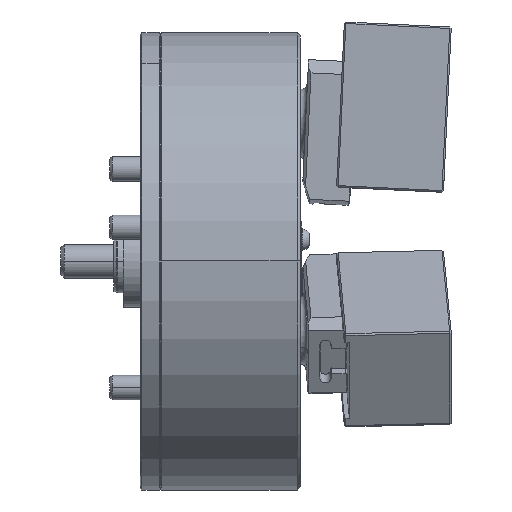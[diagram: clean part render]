
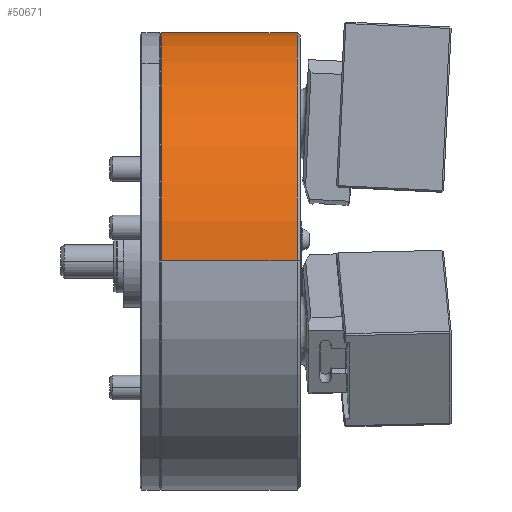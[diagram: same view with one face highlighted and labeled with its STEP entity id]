
A CAD part, top view. The second image highlights one B-rep face of the part: STEP entity #50671.
In plain terms, the highlighted cylindrical face has radius 150 mm (diameter 300 mm), a partial arc.
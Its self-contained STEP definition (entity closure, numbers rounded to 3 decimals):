
#586 = ORIENTED_EDGE ( 'NONE', *, *, #9970, .T. ) ;
#3121 = DIRECTION ( 'NONE',  ( 0., 0., -1. ) ) ;
#3338 = CARTESIAN_POINT ( 'NONE',  ( -2., 0., 150. ) ) ;
#4134 = ORIENTED_EDGE ( 'NONE', *, *, #47880, .T. ) ;
#4699 = LINE ( 'NONE', #36694, #24629 ) ;
#4981 = CARTESIAN_POINT ( 'NONE',  ( -91.2, 0., 0. ) ) ;
#5203 = AXIS2_PLACEMENT_3D ( 'NONE', #26969, #6603, #3121 ) ;
#5426 = DIRECTION ( 'NONE',  ( 1., 0., 0. ) ) ;
#5470 = ORIENTED_EDGE ( 'NONE', *, *, #36213, .F. ) ;
#6603 = DIRECTION ( 'NONE',  ( 1., 0., 0. ) ) ;
#8326 = FACE_OUTER_BOUND ( 'NONE', #46886, .T. ) ;
#8953 = DIRECTION ( 'NONE',  ( 0., 0., -1. ) ) ;
#9401 = ORIENTED_EDGE ( 'NONE', *, *, #49575, .F. ) ;
#9970 = EDGE_CURVE ( 'NONE', #15714, #21046, #47972, .T. ) ;
#10252 = CARTESIAN_POINT ( 'NONE',  ( -2., 0., -150. ) ) ;
#10392 = CARTESIAN_POINT ( 'NONE',  ( 63.843, 0., 150. ) ) ;
#11690 = AXIS2_PLACEMENT_3D ( 'NONE', #4981, #32846, #8953 ) ;
#12804 = DIRECTION ( 'NONE',  ( 1., 0., 0. ) ) ;
#15714 = VERTEX_POINT ( 'NONE', #36045 ) ;
#17617 = CYLINDRICAL_SURFACE ( 'NONE', #5203, 150. ) ;
#21046 = VERTEX_POINT ( 'NONE', #46940 ) ;
#22900 = VECTOR ( 'NONE', #38273, 1000. ) ;
#24629 = VECTOR ( 'NONE', #12804, 1000. ) ;
#26969 = CARTESIAN_POINT ( 'NONE',  ( 63.843, 0., 0. ) ) ;
#29273 = CARTESIAN_POINT ( 'NONE',  ( -2., 0., 0. ) ) ;
#32285 = LINE ( 'NONE', #10392, #22900 ) ;
#32846 = DIRECTION ( 'NONE',  ( 1., 0., 0. ) ) ;
#33294 = DIRECTION ( 'NONE',  ( 0., 0., -1. ) ) ;
#33466 = VERTEX_POINT ( 'NONE', #3338 ) ;
#36045 = CARTESIAN_POINT ( 'NONE',  ( -91.2, 0., -150. ) ) ;
#36213 = EDGE_CURVE ( 'NONE', #50570, #33466, #46063, .T. ) ;
#36694 = CARTESIAN_POINT ( 'NONE',  ( 63.843, 0., -150. ) ) ;
#38273 = DIRECTION ( 'NONE',  ( 1., 0., 0. ) ) ;
#41780 = AXIS2_PLACEMENT_3D ( 'NONE', #29273, #5426, #33294 ) ;
#46063 = CIRCLE ( 'NONE', #41780, 150. ) ;
#46886 = EDGE_LOOP ( 'NONE', ( #586, #4134, #5470, #9401 ) ) ;
#46940 = CARTESIAN_POINT ( 'NONE',  ( -91.2, 0., 150. ) ) ;
#47880 = EDGE_CURVE ( 'NONE', #21046, #33466, #32285, .T. ) ;
#47972 = CIRCLE ( 'NONE', #11690, 150. ) ;
#49575 = EDGE_CURVE ( 'NONE', #15714, #50570, #4699, .T. ) ;
#50570 = VERTEX_POINT ( 'NONE', #10252 ) ;
#50671 = ADVANCED_FACE ( 'NONE', ( #8326 ), #17617, .T. ) ;
